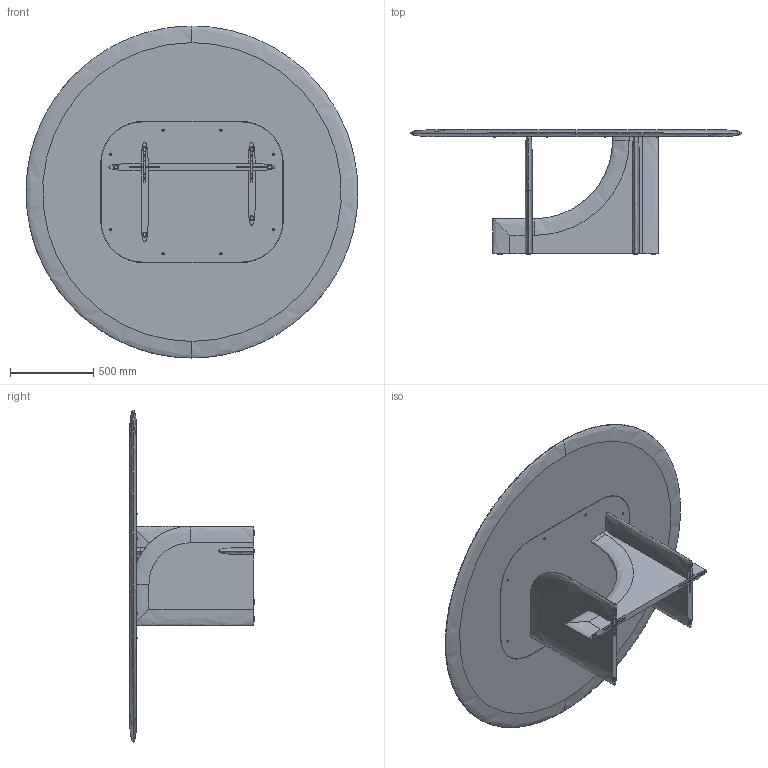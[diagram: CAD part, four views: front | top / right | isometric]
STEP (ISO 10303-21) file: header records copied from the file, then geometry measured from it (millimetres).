
FILE_DESCRIPTION (( 'STEP AP214' ), '1' );
FILE_NAME ('SELCE T Diam.2000 3D.STEP', '2026-05-11T14:42:47', ( '' ), ( '' ), 'SwSTEP 2.0', 'SolidWorks 2025', '' );
FILE_SCHEMA (( 'AUTOMOTIVE_DESIGN' ));
Length unit declared in the file: millimetre
Products named in the file (7): CROCE FERRO; ISO 7380 - M8 x 20; TOP_DIAM 2000; GAMBE e PIASTRA_GAMBA A; GAMBE e PIASTRA_PIASTRA A; SCIVOLO_IPEA_20PTPD007N; SELCE T Diam.2000 3D
Assembly tree (20 placements, depth 2):
  SELCE T Diam.2000 3D
    TOP_DIAM 2000
    GAMBE e PIASTRA_GAMBA A
    GAMBE e PIASTRA_PIASTRA A
    CROCE FERRO  x3
    SCIVOLO_IPEA_20PTPD007N  x6
    ISO 7380 - M8 x 20  x8
Bounding box: 1998.39 x 749 x 2000 mm (x, y, z)
Volume: 159738476.6 mm3; surface area: 10647923.5 mm2
Topology: 24 solids, 24 shells, 1496 faces, 3638 edges, 2168 vertices
Faces by surface type: cone 612, cylinder 500, plane 306, bspline 78
Entity records: 20237 total; most frequent: CARTESIAN_POINT 6263, DIRECTION 2941, ORIENTED_EDGE 2752, EDGE_CURVE 1376, AXIS2_PLACEMENT_3D 1116, VERTEX_POINT 871, VECTOR 709, EDGE_LOOP 709
